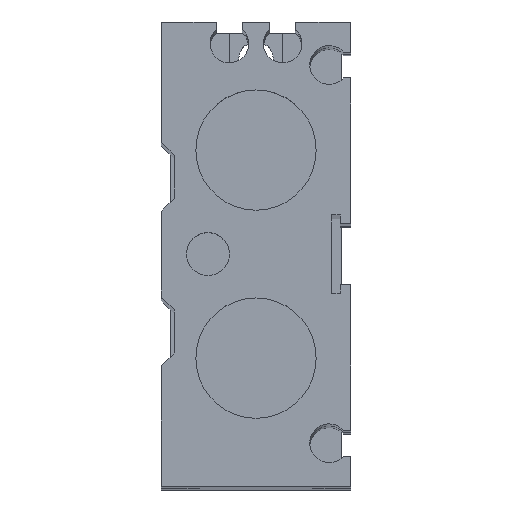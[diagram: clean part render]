
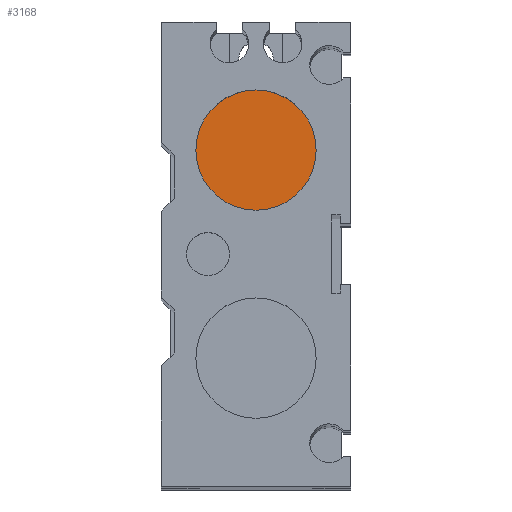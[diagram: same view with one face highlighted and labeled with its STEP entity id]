
A CAD part, top view. The second image highlights one B-rep face of the part: STEP entity #3168.
In plain terms, the highlighted planar face has unit normal (0, 0, 1).
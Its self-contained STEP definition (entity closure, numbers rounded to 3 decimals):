
#3137=CARTESIAN_POINT('',(7.,12.1,469.));
#3138=VERTEX_POINT('',#3137);
#3139=CARTESIAN_POINT('',(0.,12.1,469.));
#3140=DIRECTION('',(0.0,0.0,1.0));
#3141=DIRECTION('',(-1.0,0.0,0.0));
#3142=AXIS2_PLACEMENT_3D('',#3139,#3140,#3141);
#3143=CIRCLE('',#3142,7.);
#3144=EDGE_CURVE('',#3138,#3138,#3143,.T.);
#3160=CARTESIAN_POINT('',(0.,12.1,469.));
#3161=DIRECTION('',(0.0,0.0,-1.0));
#3162=DIRECTION('',(-1.0,0.0,0.0));
#3163=AXIS2_PLACEMENT_3D('',#3160,#3161,#3162);
#3164=PLANE('',#3163);
#3165=ORIENTED_EDGE('',*,*,#3144,.T.);
#3166=EDGE_LOOP('',(#3165));
#3167=FACE_OUTER_BOUND('',#3166,.T.);
#3168=ADVANCED_FACE('',(#3167),#3164,.F.);
